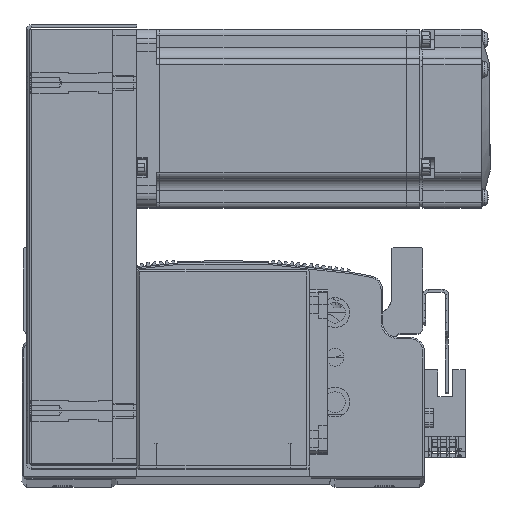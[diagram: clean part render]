
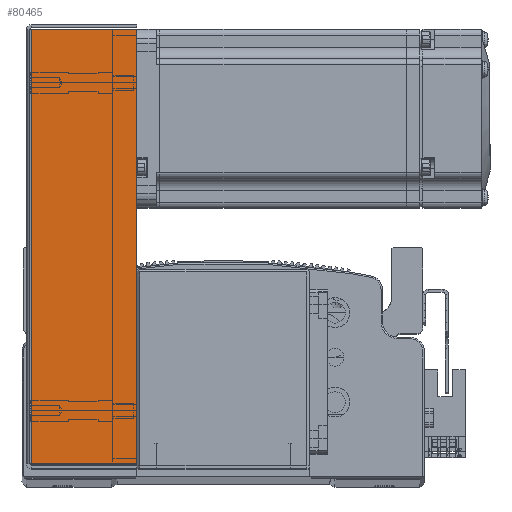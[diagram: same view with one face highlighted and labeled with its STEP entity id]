
A CAD part, top view. The second image highlights one B-rep face of the part: STEP entity #80465.
In plain terms, the highlighted planar face has unit normal (0, 0, 1).
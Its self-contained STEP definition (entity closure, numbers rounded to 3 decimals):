
#10878 = VECTOR ( 'NONE', #35998, 1000. ) ;
#10903 = LINE ( 'NONE', #35893, #10935 ) ;
#10923 = LINE ( 'NONE', #35838, #10927 ) ;
#10926 = LINE ( 'NONE', #36001, #10878 ) ;
#10927 = VECTOR ( 'NONE', #35846, 1000. ) ;
#10935 = VECTOR ( 'NONE', #35897, 1000. ) ;
#10942 = LINE ( 'NONE', #36018, #10970 ) ;
#10970 = VECTOR ( 'NONE', #36009, 1000. ) ;
#20233 = VERTEX_POINT ( 'NONE', #47877 ) ;
#20242 = VERTEX_POINT ( 'NONE', #47926 ) ;
#20317 = VERTEX_POINT ( 'NONE', #47972 ) ;
#20325 = VERTEX_POINT ( 'NONE', #47959 ) ;
#35838 = CARTESIAN_POINT ( 'NONE',  ( -72.793, 0., 34.5 ) ) ;
#35846 = DIRECTION ( 'NONE',  ( 0., 1., 0. ) ) ;
#35893 = CARTESIAN_POINT ( 'NONE',  ( 72.793, 0., 34.5 ) ) ;
#35897 = DIRECTION ( 'NONE',  ( 0., 1., 0. ) ) ;
#35998 = DIRECTION ( 'NONE',  ( -1., 0., 0. ) ) ;
#36001 = CARTESIAN_POINT ( 'NONE',  ( -74.5, 0.737, 34.5 ) ) ;
#36009 = DIRECTION ( 'NONE',  ( -1., 0., 0. ) ) ;
#36018 = CARTESIAN_POINT ( 'NONE',  ( 0., 36., 34.5 ) ) ;
#37750 = AXIS2_PLACEMENT_3D ( 'NONE', #62450, #62451, #62449 ) ;
#38793 = ORIENTED_EDGE ( 'NONE', *, *, #77631, .T. ) ;
#38805 = ORIENTED_EDGE ( 'NONE', *, *, #77627, .F. ) ;
#38818 = ORIENTED_EDGE ( 'NONE', *, *, #77603, .T. ) ;
#38885 = ORIENTED_EDGE ( 'NONE', *, *, #77589, .F. ) ;
#47877 = CARTESIAN_POINT ( 'NONE',  ( -72.793, 0.737, 34.5 ) ) ;
#47926 = CARTESIAN_POINT ( 'NONE',  ( -72.793, 36., 34.5 ) ) ;
#47959 = CARTESIAN_POINT ( 'NONE',  ( 72.793, 0.737, 34.5 ) ) ;
#47972 = CARTESIAN_POINT ( 'NONE',  ( 72.793, 36., 34.5 ) ) ;
#62449 = DIRECTION ( 'NONE',  ( -1., 0., 0. ) ) ;
#62450 = CARTESIAN_POINT ( 'NONE',  ( 0., 0., 34.5 ) ) ;
#62451 = DIRECTION ( 'NONE',  ( 0., 0., -1. ) ) ;
#62464 = PLANE ( 'NONE',  #37750 ) ;
#68020 = FACE_OUTER_BOUND ( 'NONE', #81735, .T. ) ;
#77589 = EDGE_CURVE ( 'NONE', #20233, #20242, #10923, .T. ) ;
#77603 = EDGE_CURVE ( 'NONE', #20325, #20317, #10903, .T. ) ;
#77627 = EDGE_CURVE ( 'NONE', #20325, #20233, #10926, .T. ) ;
#77631 = EDGE_CURVE ( 'NONE', #20317, #20242, #10942, .T. ) ;
#80465 = ADVANCED_FACE ( 'NONE', ( #68020 ), #62464, .F. ) ;
#81735 = EDGE_LOOP ( 'NONE', ( #38805, #38818, #38793, #38885 ) ) ;
